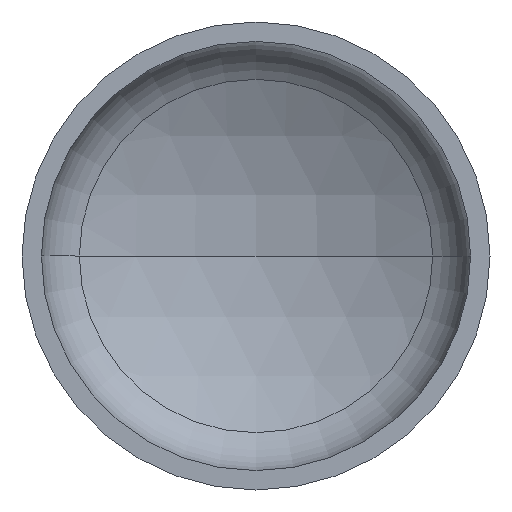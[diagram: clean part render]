
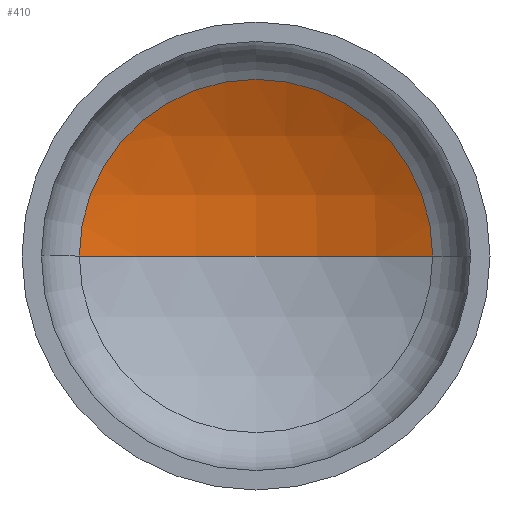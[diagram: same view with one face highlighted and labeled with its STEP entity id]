
A CAD part, front view. The second image highlights one B-rep face of the part: STEP entity #410.
In plain terms, the highlighted spherical face has radius 1120 mm.
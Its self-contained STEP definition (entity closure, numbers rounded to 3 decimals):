
#17 = EDGE_LOOP ( 'NONE', ( #73, #272, #68 ) ) ;
#19 = VERTEX_POINT ( 'NONE', #230 ) ;
#53 = CIRCLE ( 'NONE', #196, 1120. ) ;
#54 = VERTEX_POINT ( 'NONE', #222 ) ;
#68 = ORIENTED_EDGE ( 'NONE', *, *, #163, .T. ) ;
#73 = ORIENTED_EDGE ( 'NONE', *, *, #227, .F. ) ;
#77 = CARTESIAN_POINT ( 'NONE',  ( 0., -677.932, 0. ) ) ;
#84 = VERTEX_POINT ( 'NONE', #327 ) ;
#138 = AXIS2_PLACEMENT_3D ( 'NONE', #337, #157, #168 ) ;
#147 = DIRECTION ( 'NONE',  ( 1., 0., 0. ) ) ;
#153 = AXIS2_PLACEMENT_3D ( 'NONE', #77, #239, #405 ) ;
#157 = DIRECTION ( 'NONE',  ( 0., 0., -1. ) ) ;
#163 = EDGE_CURVE ( 'NONE', #19, #84, #247, .T. ) ;
#168 = DIRECTION ( 'NONE',  ( -1., 0., 0. ) ) ;
#174 = SPHERICAL_SURFACE ( 'NONE', #153, 1120. ) ;
#183 = DIRECTION ( 'NONE',  ( 0., -1., 0. ) ) ;
#187 = DIRECTION ( 'NONE',  ( 1., 0., 0. ) ) ;
#189 = CARTESIAN_POINT ( 'NONE',  ( 0., 309.564, 0. ) ) ;
#196 = AXIS2_PLACEMENT_3D ( 'NONE', #219, #218, #147 ) ;
#206 = EDGE_CURVE ( 'NONE', #54, #19, #372, .T. ) ;
#218 = DIRECTION ( 'NONE',  ( 0., 0., 1. ) ) ;
#219 = CARTESIAN_POINT ( 'NONE',  ( 0., -677.932, 0. ) ) ;
#222 = CARTESIAN_POINT ( 'NONE',  ( 0., 442.068, 0. ) ) ;
#227 = EDGE_CURVE ( 'NONE', #54, #84, #53, .T. ) ;
#230 = CARTESIAN_POINT ( 'NONE',  ( 528.442, 309.564, 0. ) ) ;
#239 = DIRECTION ( 'NONE',  ( 0., 0., -1. ) ) ;
#247 = CIRCLE ( 'NONE', #374, 528.442 ) ;
#272 = ORIENTED_EDGE ( 'NONE', *, *, #206, .T. ) ;
#327 = CARTESIAN_POINT ( 'NONE',  ( -528.442, 309.564, 0. ) ) ;
#337 = CARTESIAN_POINT ( 'NONE',  ( 0., -677.932, 0. ) ) ;
#372 = CIRCLE ( 'NONE', #138, 1120. ) ;
#374 = AXIS2_PLACEMENT_3D ( 'NONE', #189, #183, #187 ) ;
#381 = FACE_OUTER_BOUND ( 'NONE', #17, .T. ) ;
#405 = DIRECTION ( 'NONE',  ( -1., 0., 0. ) ) ;
#410 = ADVANCED_FACE ( 'NONE', ( #381 ), #174, .F. ) ;
